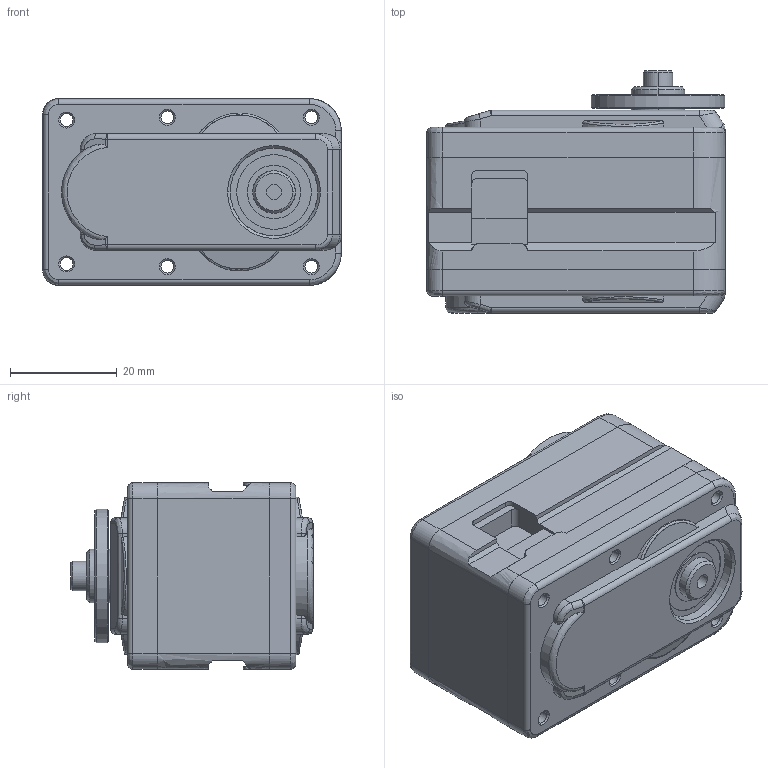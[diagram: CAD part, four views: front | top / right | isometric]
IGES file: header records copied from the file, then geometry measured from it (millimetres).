
Start section:  PTC IGES file: drs040x_publish.igs
Global section: file name: drs040x_publish.igs; native system: Pro/ENGINEER by Parametric Technology Corporation; preprocessor: 2010060; author: WOOSIK; organization: Unknown; date: 20130212.140139; units: millimetre
Bounding box: 56 x 45.4 x 35 mm (x, y, z)
Surface area: 13344.6 mm2 (no closed solid volume)
Topology: 0 solids, 0 shells, 351 faces, 1718 edges, 1718 vertices
Faces by surface type: revolution 212, bspline 139
